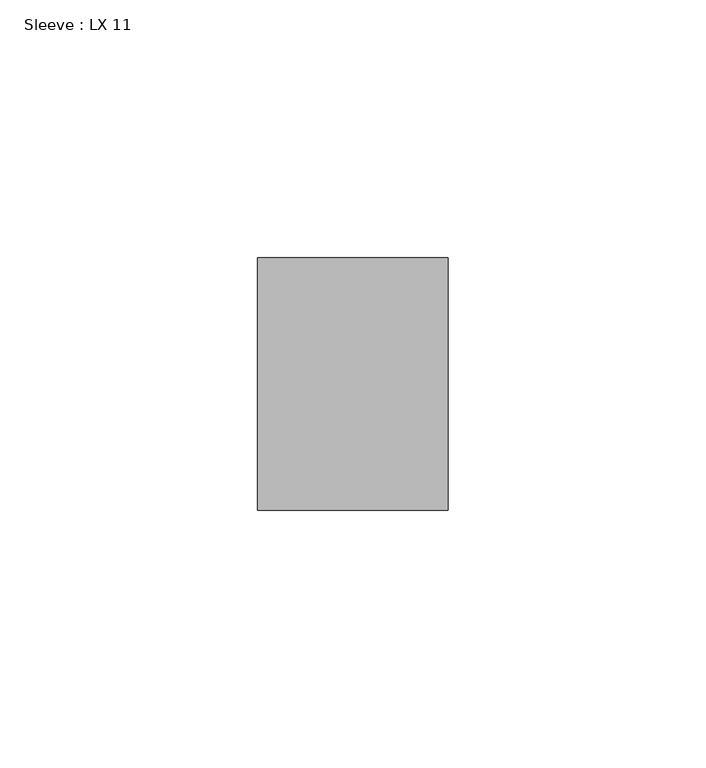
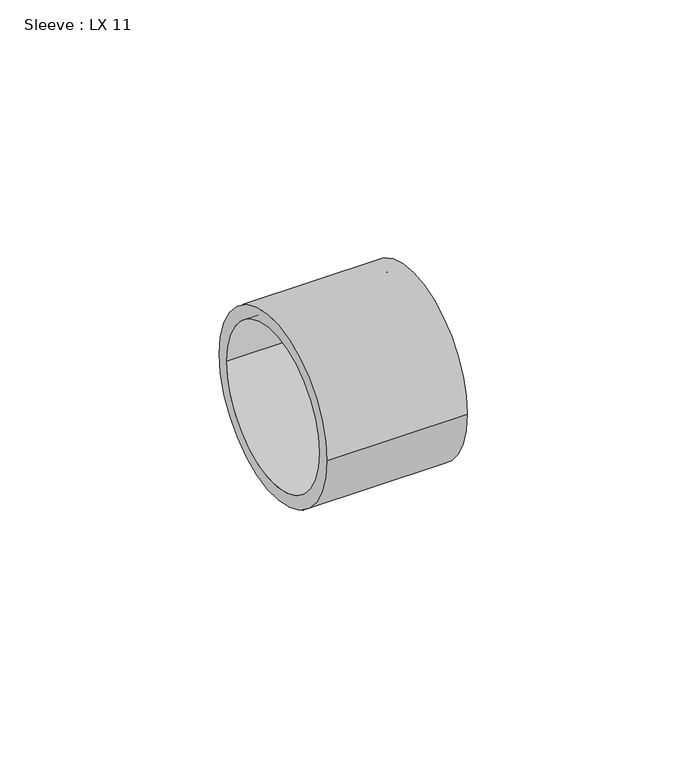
"""IFC4 building model written with IfcOpenShell, lengths in millimetres: pipe fitting geometry, Sleeve : LX 11."""

from ifc_helpers import new_model, si_unit, point, frame, origin, origin_2d, place, context, project, spatial, circle_curve, trimmed, segment, composite_curve, outline, extrude, source, transform, mapped, element, save


def sleeve_lx_11_a113959b(model_context):
    return source(origin(), model_context, "Body", "SweptSolid", [
        extrude(outline(composite_curve([segment(trimmed(circle_curve(origin_2d(), 24.5), [point((24.5, 0.0))], [point((-24.5, 0.0))], False, "CARTESIAN"), True, "CONTINUOUS"), segment(trimmed(circle_curve(origin_2d(), 24.5), [point((-24.5, 0.0))], [point((24.5, 0.0))], False, "CARTESIAN"), True, "CONTINUOUS")], self_intersect=False), holes=[composite_curve([segment(trimmed(circle_curve(origin_2d(), 21.05), [point((21.05, 0.0))], [point((-21.05, 0.0))], True, "CARTESIAN"), True, "CONTINUOUS"), segment(trimmed(circle_curve(origin_2d(), 21.05), [point((-21.05, 0.0))], [point((21.05, 0.0))], True, "CARTESIAN"), True, "CONTINUOUS")], self_intersect=False)]), frame((0.0, 0.0, 0.0), z_axis=(1.0, 0.0, 0.0), x_axis=(0.0, 1.0, 0.0)), (0.0, 0.0, 1.0), 37.0),
    ])


if __name__ == "__main__":
    model = new_model("IFC4")
    model_context = context("Model", 3, world=origin())
    ifc_project = project(units=[si_unit("LENGTHUNIT", "METRE", prefix="MILLI")], contexts=[model_context])
    site = spatial("IfcSite", under=ifc_project)
    building = spatial("IfcBuilding", under=site)
    placement = place(None, origin())
    sleeve_lx_11_shape = sleeve_lx_11_a113959b(model_context)
    element("IfcPipeFitting", 1, ObjectType="Sleeve : LX 11", at=placement, inside=building, context=model_context, shape_type="MappedRepresentation", body=[
        mapped(sleeve_lx_11_shape, transform((0.0, 0.0, 0.0), x_axis=(1.0, 0.0, 0.0), y_axis=(0.0, 1.0, 0.0), z_axis=(0.0, 0.0, 1.0))),
    ])
    save(model, "model.ifc")
